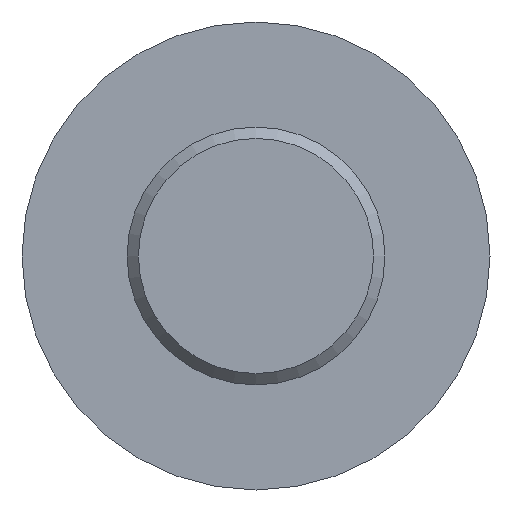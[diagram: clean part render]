
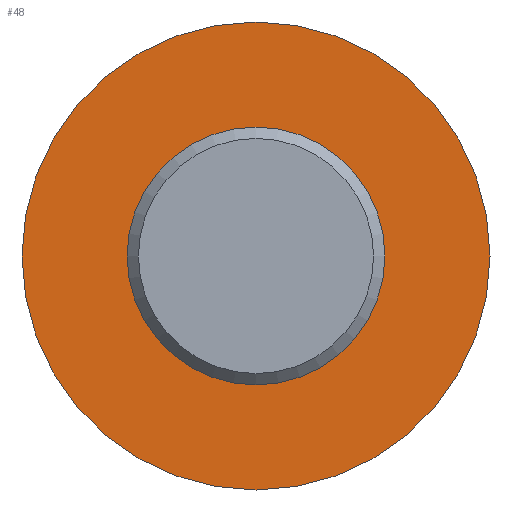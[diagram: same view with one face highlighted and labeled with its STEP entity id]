
A CAD part, front view. The second image highlights one B-rep face of the part: STEP entity #48.
In plain terms, the highlighted planar face has unit normal (0, -1, 0).
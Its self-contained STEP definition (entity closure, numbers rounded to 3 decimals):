
#48 = ADVANCED_FACE( '', ( #95, #96 ), #97, .F. );
#95 = FACE_BOUND( '', #172, .T. );
#96 = FACE_OUTER_BOUND( '', #173, .T. );
#97 = PLANE( '', #174 );
#172 = EDGE_LOOP( '', ( #228 ) );
#173 = EDGE_LOOP( '', ( #229 ) );
#174 = AXIS2_PLACEMENT_3D( '', #230, #231, #232 );
#228 = ORIENTED_EDGE( '', *, *, #264, .F. );
#229 = ORIENTED_EDGE( '', *, *, #261, .T. );
#230 = CARTESIAN_POINT( '', ( 24., 18., 0. ) );
#231 = DIRECTION( '', ( 0., 1., 0. ) );
#232 = DIRECTION( '', ( 0., 0., 1. ) );
#261 = EDGE_CURVE( '', #290, #290, #291, .T. );
#264 = EDGE_CURVE( '', #295, #295, #296, .T. );
#290 = VERTEX_POINT( '', #366 );
#291 = CIRCLE( '', #367, 24. );
#295 = VERTEX_POINT( '', #371 );
#296 = CIRCLE( '', #372, 13.221 );
#366 = CARTESIAN_POINT( '', ( 0., 18., -24. ) );
#367 = AXIS2_PLACEMENT_3D( '', #392, #393, #394 );
#371 = CARTESIAN_POINT( '', ( 0., 18., -13.221 ) );
#372 = AXIS2_PLACEMENT_3D( '', #398, #399, #400 );
#392 = CARTESIAN_POINT( '', ( 0., 18., 0. ) );
#393 = DIRECTION( '', ( 0., -1., 0. ) );
#394 = DIRECTION( '', ( 0., 0., -1. ) );
#398 = CARTESIAN_POINT( '', ( 0., 18., 0. ) );
#399 = DIRECTION( '', ( 0., -1., 0. ) );
#400 = DIRECTION( '', ( 0., 0., -1. ) );
